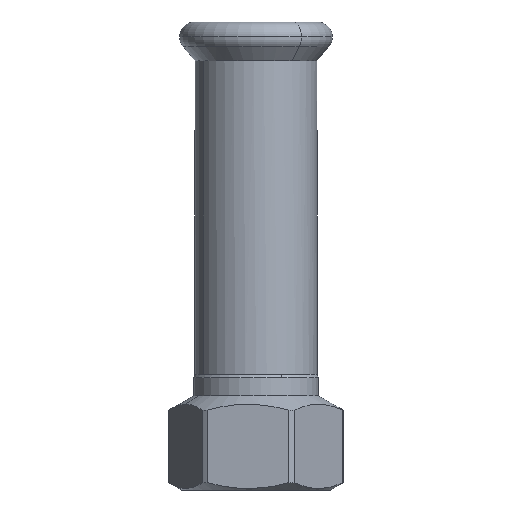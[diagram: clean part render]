
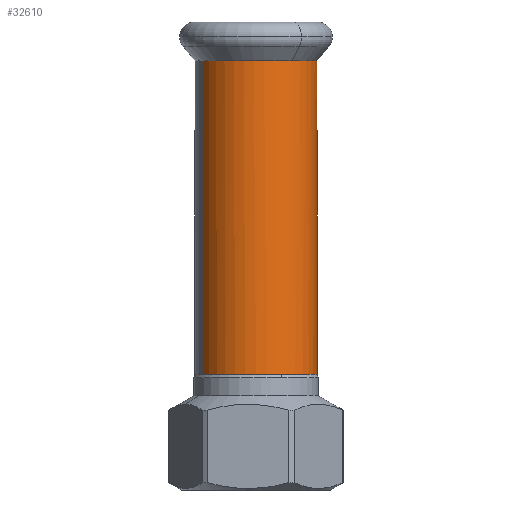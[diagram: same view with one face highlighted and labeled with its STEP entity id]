
A CAD part, left-side view. The second image highlights one B-rep face of the part: STEP entity #32610.
In plain terms, the highlighted cylindrical face has radius 12.65 mm (diameter 25.3 mm), a partial arc.
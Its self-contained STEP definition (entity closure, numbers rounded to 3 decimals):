
#3740=CARTESIAN_POINT('',(49.067,47.456,9.361));
#3750=DIRECTION('',(0.,0.,1.));
#3760=DIRECTION('',(-0.5,0.866,0.));
#3770=AXIS2_PLACEMENT_3D('',#3740,#3750,#3760);
#3780=CIRCLE('',#3770,12.65);
#3790=CARTESIAN_POINT('',(36.417,47.456,9.361));
#3800=VERTEX_POINT('',#3790);
#3810=CARTESIAN_POINT('',(55.392,36.501,9.361));
#3820=VERTEX_POINT('',#3810);
#3830=EDGE_CURVE('',#3800,#3820,#3780,.T.);
#3850=CARTESIAN_POINT('',(42.742,58.412,9.361));
#3860=VERTEX_POINT('',#3850);
#3890=EDGE_CURVE('',#3860,#3800,#3780,.T.);
#4350=CARTESIAN_POINT('',(49.067,47.456,
74.319));
#4360=DIRECTION('',(0.,0.,1.));
#4370=DIRECTION('',(0.805,0.593,
0.));
#4380=AXIS2_PLACEMENT_3D('',#4350,#4360,#4370);
#4390=CIRCLE('',#4380,12.65);
#4400=CARTESIAN_POINT('',(38.886,39.949,
74.319));
#4410=VERTEX_POINT('',#4400);
#4420=CARTESIAN_POINT('',(55.392,36.501,74.319));
#4430=VERTEX_POINT('',#4420);
#4440=EDGE_CURVE('',#4410,#4430,#4390,.T.);
#6410=CARTESIAN_POINT('',(49.067,47.456,40.289));
#6420=DIRECTION('',(0.,0.,-1.));
#6430=DIRECTION('',(-0.5,0.866,0.));
#6440=AXIS2_PLACEMENT_3D('',#6410,#6420,#6430);
#6450=CYLINDRICAL_SURFACE('',#6440,12.65);
#6460=CARTESIAN_POINT('',(42.742,58.412,74.319));
#6470=VERTEX_POINT('',#6460);
#6500=CARTESIAN_POINT('',(42.742,58.412,40.289));
#6510=DIRECTION('',(0.,0.,-1.));
#6520=VECTOR('',#6510,1.);
#6530=LINE('',#6500,#6520);
#6540=EDGE_CURVE('',#6470,#3860,#6530,.T.);
#6570=CARTESIAN_POINT('',(55.392,36.501,40.289));
#6580=DIRECTION('',(0.,0.,-1.));
#6590=VECTOR('',#6580,1.);
#6600=LINE('',#6570,#6590);
#6610=EDGE_CURVE('',#4430,#3820,#6600,.T.);
#32520=ORIENTED_EDGE('',*,*,#6540,.T.);
#32530=EDGE_CURVE('',#6470,#4410,#4390,.T.);
#32540=ORIENTED_EDGE('',*,*,#32530,.F.);
#32550=ORIENTED_EDGE('',*,*,#4440,.F.);
#32560=ORIENTED_EDGE('',*,*,#6610,.F.);
#32570=ORIENTED_EDGE('',*,*,#3830,.T.);
#32580=ORIENTED_EDGE('',*,*,#3890,.T.);
#32590=EDGE_LOOP('',(#32580,#32570,#32560,#32550,#32540,#32520));
#32600=FACE_OUTER_BOUND('',#32590,.T.);
#32610=ADVANCED_FACE('',(#32600),#6450,.T.);
